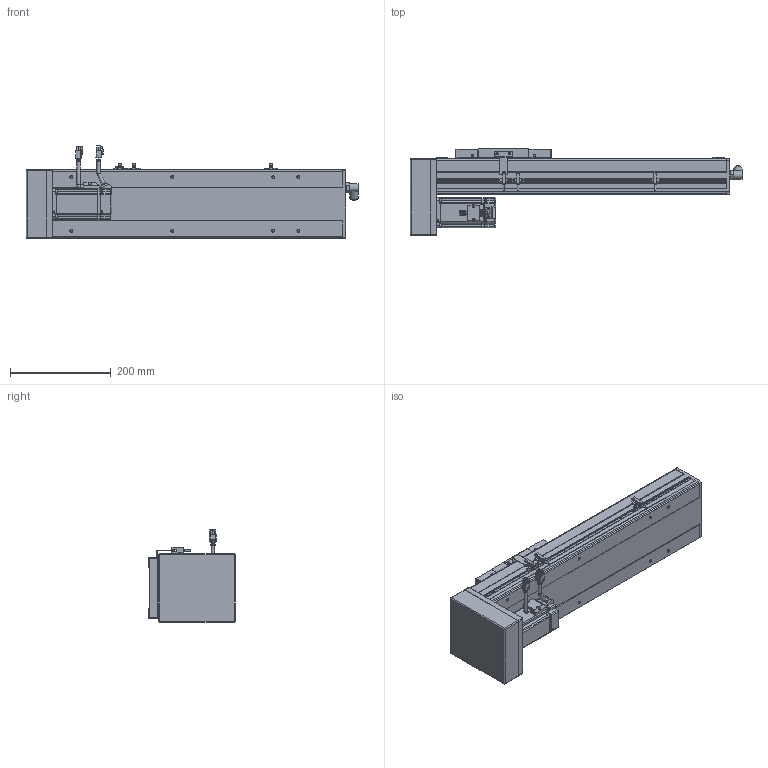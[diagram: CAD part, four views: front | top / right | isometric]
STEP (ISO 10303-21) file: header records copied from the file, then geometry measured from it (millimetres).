
FILE_DESCRIPTION(/* description */ ('STEP AP214'),/* implementation_level */ '2;1');
FILE_NAME(/* name */ 'PSC140-L05-S300-BM-P40-C1-N(0)',/* time_stamp */ '2022-06-13T03:20:33+02:00',/* author */ ('License CC BY-ND 4.0'),/* organization */ ('CADENAS'),/* preprocessor_version */ 'ST-DEVELOPER v18.102',/* originating_system */ 'PARTsolutions',/* authorisation */ ' ');
FILE_SCHEMA (('AUTOMOTIVE_DESIGN {1 0 10303 214 3 1 1}'));
Length unit declared in the file: millimetre
Products named in the file (11): PSC140-L05-S300-BM-P40-C1-N(0); P40-s2; P40-c2; P40-s1; P40-c1; P40-p1; PSC140-BM-body2; PSC140-sensor; PSC140-BM-SLIDER; PSC140-S300-BM-P40-C1_BODY1; PSC140-L05-S300-BM-P40-C1-N(0)_dummy
Assembly tree (12 placements, depth 2):
  PSC140-L05-S300-BM-P40-C1-N(0)
    P40-s2
    P40-c2
    P40-s1
    P40-c1
    P40-p1
    PSC140-BM-body2
    PSC140-sensor  x3
    PSC140-BM-SLIDER
    PSC140-S300-BM-P40-C1_BODY1
    PSC140-L05-S300-BM-P40-C1-N(0)_dummy
Bounding box: 658 x 171.5 x 182.48 mm (x, y, z)
Volume: 7355679.6 mm3; surface area: 480620 mm2
Topology: 11 solids, 11 shells, 1219 faces, 3159 edges, 2091 vertices
Faces by surface type: plane 854, cylinder 310, cone 36, torus 19
Full cylindrical faces by diameter (mm): 1 x8, 2.6 x10, 2.8 x3, 3.3 x8, 4.5 x12, 4.6 x3, 4.917 x12, 5 x4, 5.5 x8, 6 x10, 7 x10, 9 x2, 10 x1, 11 x1, 12 x1, 13.74 x1, 14 x1, 16.4 x2, 16.5 x1, 36 x1, 50 x2
Entity records: 33846 total; most frequent: CARTESIAN_POINT 5917, DIRECTION 5683, ORIENTED_EDGE 5510, EDGE_CURVE 2755, LINE 2097, VECTOR 2097, VERTEX_POINT 1912, AXIS2_PLACEMENT_3D 1793
